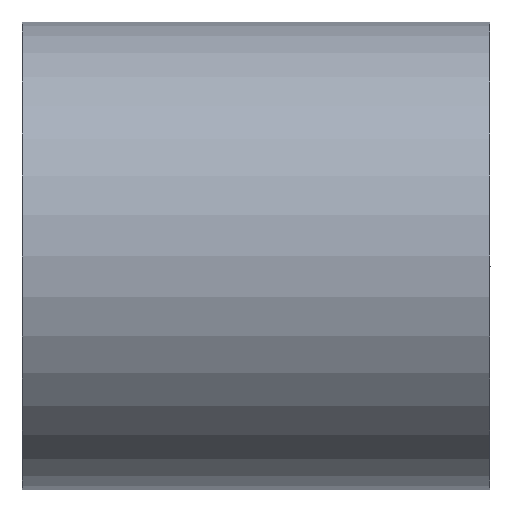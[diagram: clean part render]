
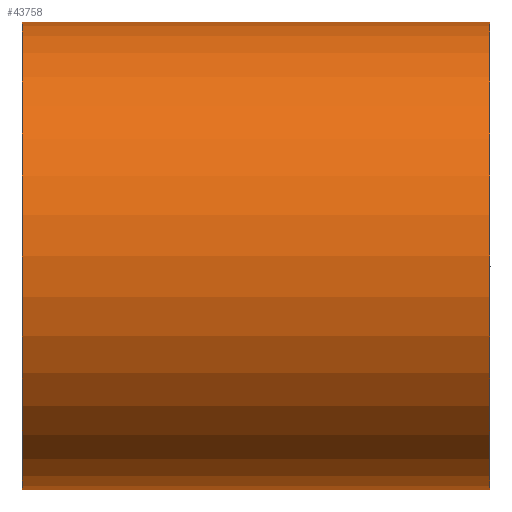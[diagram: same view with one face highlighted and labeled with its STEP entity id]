
A CAD part, left-side view. The second image highlights one B-rep face of the part: STEP entity #43758.
In plain terms, the highlighted cylindrical face has radius 6.346 mm (diameter 12.692 mm), a partial arc.
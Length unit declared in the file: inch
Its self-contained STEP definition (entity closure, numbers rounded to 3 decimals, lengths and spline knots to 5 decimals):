
#716 = DIRECTION ( 'NONE',  ( 0., 0., 1. ) ) ;
#1713 = EDGE_CURVE ( 'NONE', #36754, #47649, #40346, .T. ) ;
#2341 = CARTESIAN_POINT ( 'NONE',  ( 0., 0., -0.24985 ) ) ;
#4934 = AXIS2_PLACEMENT_3D ( 'NONE', #35599, #8885, #716 ) ;
#5116 = ORIENTED_EDGE ( 'NONE', *, *, #30813, .T. ) ;
#5515 = EDGE_CURVE ( 'NONE', #36754, #36319, #10453, .T. ) ;
#8257 = CARTESIAN_POINT ( 'NONE',  ( 0., 0.5, 0. ) ) ;
#8334 = CARTESIAN_POINT ( 'NONE',  ( 0., 1., 0. ) ) ;
#8885 = DIRECTION ( 'NONE',  ( 0., 1., 0. ) ) ;
#9834 = VECTOR ( 'NONE', #17406, 39.37008 ) ;
#10453 = LINE ( 'NONE', #32285, #9834 ) ;
#14778 = EDGE_CURVE ( 'NONE', #47649, #24933, #23598, .T. ) ;
#15437 = DIRECTION ( 'NONE',  ( 0., 0., -1. ) ) ;
#15442 = CARTESIAN_POINT ( 'NONE',  ( 0., 0.5, -0.24985 ) ) ;
#17406 = DIRECTION ( 'NONE',  ( 0., -1., 0. ) ) ;
#18780 = VECTOR ( 'NONE', #34688, 39.37008 ) ;
#19560 = CARTESIAN_POINT ( 'NONE',  ( 0., 0.5, 0.24985 ) ) ;
#20019 = DIRECTION ( 'NONE',  ( 0., 0., -1. ) ) ;
#22901 = CARTESIAN_POINT ( 'NONE',  ( 0., 0., 0.24985 ) ) ;
#23598 = LINE ( 'NONE', #30850, #18780 ) ;
#24698 = FACE_OUTER_BOUND ( 'NONE', #42804, .T. ) ;
#24933 = VERTEX_POINT ( 'NONE', #2341 ) ;
#28299 = CYLINDRICAL_SURFACE ( 'NONE', #44360, 0.24985 ) ;
#30475 = ORIENTED_EDGE ( 'NONE', *, *, #14778, .T. ) ;
#30813 = EDGE_CURVE ( 'NONE', #24933, #36319, #32496, .T. ) ;
#30850 = CARTESIAN_POINT ( 'NONE',  ( 0., 1., -0.24985 ) ) ;
#31709 = DIRECTION ( 'NONE',  ( 0., -1., 0. ) ) ;
#32285 = CARTESIAN_POINT ( 'NONE',  ( 0., 1., 0.24985 ) ) ;
#32496 = CIRCLE ( 'NONE', #4934, 0.24985 ) ;
#32636 = ORIENTED_EDGE ( 'NONE', *, *, #1713, .T. ) ;
#34688 = DIRECTION ( 'NONE',  ( 0., -1., 0. ) ) ;
#35599 = CARTESIAN_POINT ( 'NONE',  ( 0., 0., 0. ) ) ;
#36319 = VERTEX_POINT ( 'NONE', #22901 ) ;
#36754 = VERTEX_POINT ( 'NONE', #19560 ) ;
#37371 = ORIENTED_EDGE ( 'NONE', *, *, #5515, .F. ) ;
#38313 = DIRECTION ( 'NONE',  ( 0., -1., 0. ) ) ;
#40090 = AXIS2_PLACEMENT_3D ( 'NONE', #8257, #38313, #15437 ) ;
#40346 = CIRCLE ( 'NONE', #40090, 0.24985 ) ;
#42804 = EDGE_LOOP ( 'NONE', ( #37371, #32636, #30475, #5116 ) ) ;
#43758 = ADVANCED_FACE ( 'NONE', ( #24698 ), #28299, .T. ) ;
#44360 = AXIS2_PLACEMENT_3D ( 'NONE', #8334, #31709, #20019 ) ;
#47649 = VERTEX_POINT ( 'NONE', #15442 ) ;
